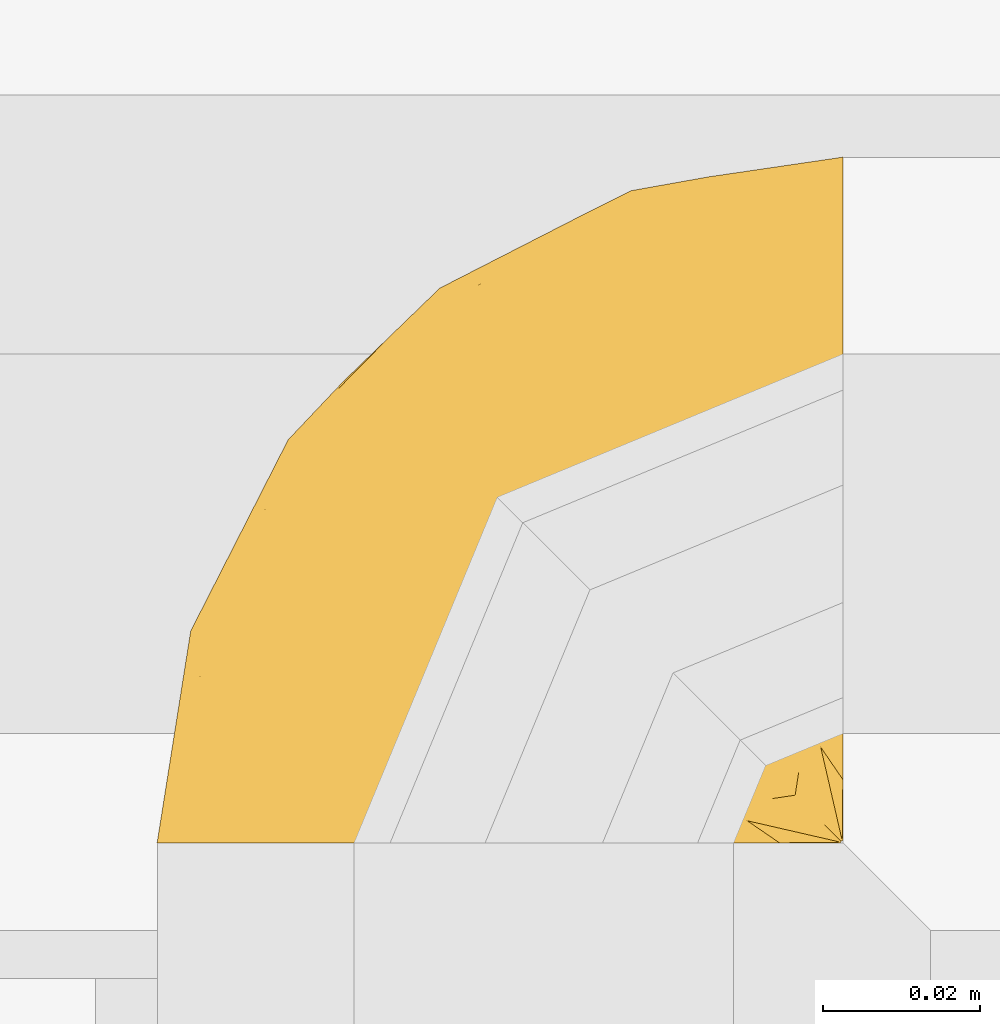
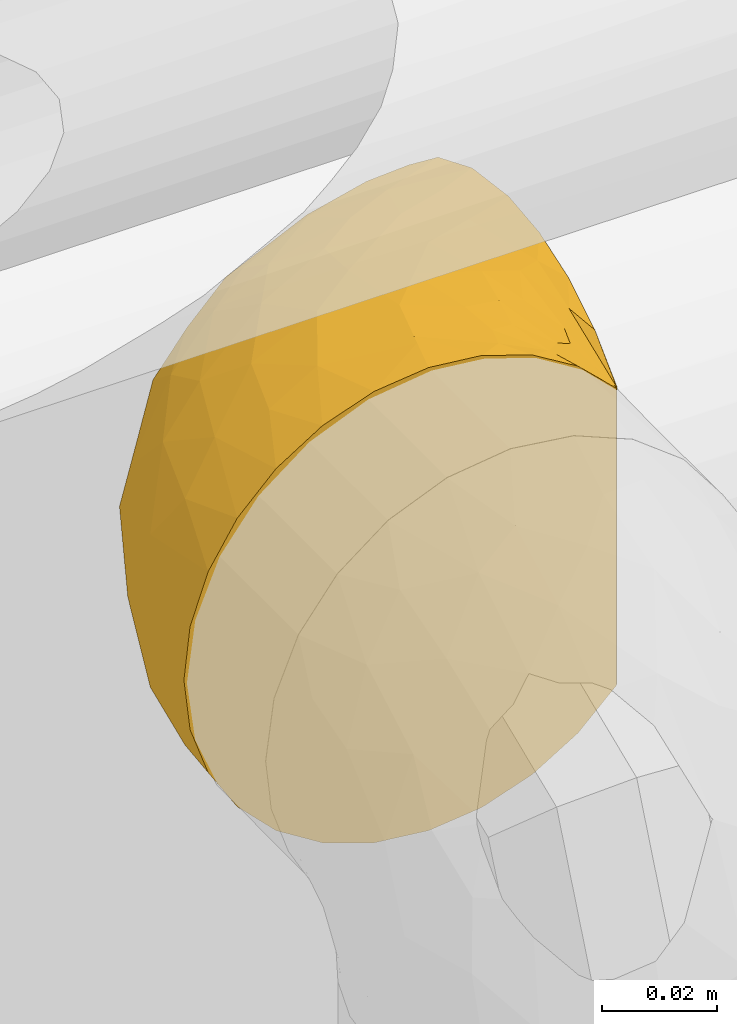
# One storey, part 44 of 94: 1 covering.
"""IFC2X3 building model written with IfcOpenShell, lengths in millimetres."""

import ifcopenshell
import ifcopenshell.guid

model = None  # the IFC model being written
_history = None  # IfcOwnerHistory: only IFC2X3 demands one
_inside = {}  # id of a spatial element -> (the spatial element, [elements in it])
_under = {}  # id of a project, library or spatial element -> (it, [spatial elements below it])
_declared = {}  # id of a project -> (the project, [libraries it declares])
_typed = {}  # id of a type object -> (the type object, [elements of that type])
_made_of = {}  # id of a material, layer set ... -> (it, [elements and type objects made of it])


def new_model(schema):
    """Start an empty IFC model of exactly this schema.

    Asked for "IFC4X3", IfcOpenShell would pick the latest addendum, in which some entities
    have other attributes; the version numbers below select the first issue.
    IFC2X3 requires an IfcOwnerHistory on every rooted entity: one is made here for all.
    """
    global model, _history
    if schema == "IFC4X3":
        model = ifcopenshell.file(schema_version=(4, 3, 0, 0))
    else:
        model = ifcopenshell.file(schema=schema)
    _inside.clear()
    _under.clear()
    _declared.clear()
    _typed.clear()
    _made_of.clear()
    _history = None
    if model.schema == "IFC2X3":
        org = make("IfcOrganization", Name="unknown")
        user = make(
            "IfcPersonAndOrganization",
            ThePerson=make("IfcPerson", FamilyName="unknown"),
            TheOrganization=org,
        )
        app = make(
            "IfcApplication",
            ApplicationDeveloper=org,
            Version="unknown",
            ApplicationFullName="unknown",
            ApplicationIdentifier="unknown",
        )
        _history = make(
            "IfcOwnerHistory",
            OwningUser=user,
            OwningApplication=app,
            ChangeAction="ADDED",
            CreationDate=0,
        )
    return model


def make(cls, **values):
    """One entity of the class cls with the attributes given. An attribute that is None is left unset."""
    return model.create_entity(
        cls, **{name: value for name, value in values.items() if value is not None}
    )


def entity(cls, *values):
    """Any entity or typed value of the class cls, its attributes in the order of the schema. None: left unset."""
    e = model.create_entity(cls)
    for i, value in enumerate(values):
        if value is not None:
            e[i] = value
    return e


def rooted(cls, **values):
    """An entity with a GlobalId (a new one), such as an element, a storey or a relation."""
    return make(cls, GlobalId=ifcopenshell.guid.new(), OwnerHistory=_history, **values)


def si_unit(unit_type, name, prefix=None):
    """IfcSIUnit, for example si_unit("LENGTHUNIT", "METRE", prefix="MILLI")."""
    return make("IfcSIUnit", UnitType=unit_type, Prefix=prefix, Name=name)


def converted_unit(unit_type, name, factor, base, dimensions=None, offset=None):
    """IfcConversionBasedUnit, such as the inch: factor (a typed value) times the base unit."""
    return make(
        "IfcConversionBasedUnit"
        if offset is None
        else "IfcConversionBasedUnitWithOffset",
        ConversionOffset=offset,
        Dimensions=None
        if dimensions is None
        else entity("IfcDimensionalExponents", *dimensions),
        UnitType=unit_type,
        Name=name,
        ConversionFactor=make(
            "IfcMeasureWithUnit", ValueComponent=factor, UnitComponent=base
        ),
    )


def derived_unit(unit_type, elements):
    """IfcDerivedUnit: a product of units, each with its exponent."""
    return make(
        "IfcDerivedUnit",
        Elements=[
            make("IfcDerivedUnitElement", Unit=unit, Exponent=power)
            for unit, power in elements
        ],
        UnitType=unit_type,
    )


def assignment(units):
    """IfcUnitAssignment: the units of a project."""
    return None if units is None else make("IfcUnitAssignment", Units=units)


def point(xyz):
    """IfcCartesianPoint."""
    return None if xyz is None else make("IfcCartesianPoint", Coordinates=xyz)


def direction(xyz):
    """IfcDirection."""
    return None if xyz is None else make("IfcDirection", DirectionRatios=xyz)


def frame(location, z_axis=None, x_axis=None):
    """IfcAxis2Placement3D, a coordinate frame: its origin and axes. An axis left out is left unset."""
    return make(
        "IfcAxis2Placement3D",
        Location=point(location),
        Axis=direction(z_axis),
        RefDirection=direction(x_axis),
    )


def origin():
    """The frame at (0, 0, 0) with its axes left unset."""
    return frame((0.0, 0.0, 0.0))


def place(relative_to, where):
    """IfcLocalPlacement: puts the frame where relative to a parent placement (None: the world)."""
    return make(
        "IfcLocalPlacement", PlacementRelTo=relative_to, RelativePlacement=where
    )


def context(
    kind, dimensions, precision=None, world=None, true_north=None, identifier=None
):
    """IfcGeometricRepresentationContext, for example the 3D "Model" context."""
    return make(
        "IfcGeometricRepresentationContext",
        ContextIdentifier=identifier,
        ContextType=kind,
        CoordinateSpaceDimension=dimensions,
        Precision=precision,
        WorldCoordinateSystem=world,
        TrueNorth=true_north,
    )


def subcontext(parent, identifier, kind, view, scale=None):
    """IfcGeometricRepresentationSubContext, for example "Body" below "Model"."""
    return make(
        "IfcGeometricRepresentationSubContext",
        ContextIdentifier=identifier,
        ContextType=kind,
        ParentContext=parent,
        TargetScale=scale,
        TargetView=view,
    )


def project(units=None, contexts=None):
    """IfcProject with its units and contexts."""
    return rooted(
        "IfcProject",
        Name="project",
        RepresentationContexts=contexts,
        UnitsInContext=assignment(units),
    )


def spatial(cls, under=None, at=None, **own):
    """A site, building, storey or space (cls), placed at a placement, below another one or the project."""
    s = rooted(cls, ObjectPlacement=at, **own)
    if under is not None:
        _under.setdefault(under.id(), (under, []))[1].append(s)
    return s


def faces_of(points, faces, orient=None, outer=None):
    """IfcFace entities. A face is a list of loops; a loop is a list of indices into points, from 0.

    orient and outer hold one flag for each loop. By default every Orientation is true, the
    first loop of a face is its IfcFaceOuterBound and the others are IfcFaceBound.
    """
    made = []
    for i, loops in enumerate(faces):
        bounds = []
        for j, loop in enumerate(loops):
            is_outer = j == 0 if outer is None else outer[i][j]
            bounds.append(
                make(
                    "IfcFaceOuterBound" if is_outer else "IfcFaceBound",
                    Bound=make("IfcPolyLoop", Polygon=[points[k] for k in loop]),
                    Orientation=True if orient is None else orient[i][j],
                )
            )
        made.append(make("IfcFace", Bounds=bounds))
    return made


def faceted_brep(points, faces, orient=None, outer=None, voids=None):
    """IfcFacetedBrep: a solid bounded by flat faces; with voids (closed shells), ...WithVoids."""
    shared = [point(p) for p in points]
    hull = make("IfcClosedShell", CfsFaces=faces_of(shared, faces, orient, outer))
    if voids is None:
        return make("IfcFacetedBrep", Outer=hull)
    return make(
        "IfcFacetedBrepWithVoids",
        Outer=hull,
        Voids=[
            make(cls, CfsFaces=faces_of(shared, fs, o, b)) for cls, fs, o, b in voids
        ],
    )


def shape(context_of_items, identifier, shape_type, items):
    """IfcShapeRepresentation: the items that make up one representation, for example the "Body"."""
    return make(
        "IfcShapeRepresentation",
        ContextOfItems=context_of_items,
        RepresentationIdentifier=identifier,
        RepresentationType=shape_type,
        Items=items,
    )


def material(Name=None, Category=None):
    """IfcMaterial."""
    return make("IfcMaterial", Name=Name, Category=Category)


def made_of(thing, what):
    """Note that an element or type object is made of a material, layer set ...; save() writes the relation."""
    if what is not None:
        _made_of.setdefault(what.id(), (what, []))[1].append(thing)
    return thing


def element(
    cls,
    number,
    at=None,
    inside=None,
    cuts=None,
    type_object=None,
    material=None,
    context=None,
    identifier="Body",
    shape_type=None,
    held_by="IfcProductDefinitionShape",
    body=None,
    shapes=None,
    **own,
):
    """One element of the class cls, such as IfcWall. Its Tag is "e" and its number.

    at: its placement. inside: the storey or other place that contains it. cuts: it is an
    opening in that element (IfcRelVoidsElement). A single representation is given by context,
    identifier, shape_type and body (its items); several are given by shapes. held_by: the class
    of the entity that holds the representations. save() writes the other relations.
    """
    e = rooted(cls, Tag="e%d" % number, ObjectPlacement=at, **own)
    if body is not None:
        shapes = [shape(context, identifier, shape_type, body)]
    if shapes is not None:
        e.Representation = make(held_by, Representations=shapes)
    if inside is not None:
        _inside.setdefault(inside.id(), (inside, []))[1].append(e)
    if cuts is not None:
        rooted(
            "IfcRelVoidsElement", RelatingBuildingElement=cuts, RelatedOpeningElement=e
        )
    if type_object is not None:
        _typed.setdefault(type_object.id(), (type_object, []))[1].append(e)
    return made_of(e, material)


def aggregate(whole, parts):
    """IfcRelAggregates: a whole, such as a stair, and the parts it consists of."""
    return rooted("IfcRelAggregates", RelatingObject=whole, RelatedObjects=parts)


def save(model, path):
    """Write the relations noted so far, then the file.

    IfcRelAggregates (storeys below a building ...), IfcRelContainedInSpatialStructure (elements
    in a storey), IfcRelDefinesByType, IfcRelAssociatesMaterial and IfcRelDeclares: one each for
    every whole, place, type object, material and project.
    """
    for whole, parts in _under.values():
        aggregate(whole, parts)
    for where, things in _inside.values():
        rooted(
            "IfcRelContainedInSpatialStructure",
            RelatedElements=things,
            RelatingStructure=where,
        )
    for kind, things in _typed.values():
        rooted("IfcRelDefinesByType", RelatedObjects=things, RelatingType=kind)
    for what, things in _made_of.values():
        rooted("IfcRelAssociatesMaterial", RelatedObjects=things, RelatingMaterial=what)
    for by, libraries in _declared.values():
        rooted("IfcRelDeclares", RelatingContext=by, RelatedDefinitions=libraries)
    model.write(path)


model = new_model("IFC2X3")

# Units and contexts
model_context = context("Model", 3, precision=0.01, world=origin(), true_north=direction((6.123031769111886e-17, 1.0)))
body_context = subcontext(model_context, "Body", "Model", "MODEL_VIEW")
ifc_project = project(units=[si_unit("LENGTHUNIT", "METRE", prefix="MILLI"), si_unit("AREAUNIT", "SQUARE_METRE"), si_unit("VOLUMEUNIT", "CUBIC_METRE"), converted_unit("PLANEANGLEUNIT", "DEGREE", entity("IfcRatioMeasure", 0.017453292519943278), si_unit("PLANEANGLEUNIT", "RADIAN"), dimensions=[0, 0, 0, 0, 0, 0, 0]), si_unit("MASSUNIT", "GRAM", prefix="KILO"), derived_unit("MASSDENSITYUNIT", [(si_unit("MASSUNIT", "GRAM", prefix="KILO"), 1), (si_unit("LENGTHUNIT", "METRE"), -3)]), derived_unit("IONCONCENTRATIONUNIT", [(si_unit("MASSUNIT", "GRAM", prefix="KILO"), 1), (si_unit("LENGTHUNIT", "METRE"), -3)]), derived_unit("MOMENTOFINERTIAUNIT", [(si_unit("LENGTHUNIT", "METRE"), 4)]), si_unit("TIMEUNIT", "SECOND"), si_unit("FREQUENCYUNIT", "HERTZ"), si_unit("THERMODYNAMICTEMPERATUREUNIT", "DEGREE_CELSIUS"), derived_unit("THERMALTRANSMITTANCEUNIT", [(si_unit("MASSUNIT", "GRAM", prefix="KILO"), 1), (si_unit("THERMODYNAMICTEMPERATUREUNIT", "KELVIN"), -1), (si_unit("TIMEUNIT", "SECOND"), -3)]), derived_unit("THERMALCONDUCTANCEUNIT", [(si_unit("MASSUNIT", "GRAM", prefix="KILO"), 1), (si_unit("THERMODYNAMICTEMPERATUREUNIT", "KELVIN"), -1), (si_unit("TIMEUNIT", "SECOND"), -3), (si_unit("LENGTHUNIT", "METRE"), 1)]), derived_unit("VOLUMETRICFLOWRATEUNIT", [(si_unit("LENGTHUNIT", "METRE"), 3), (si_unit("TIMEUNIT", "SECOND"), -1)]), derived_unit("MASSFLOWRATEUNIT", [(si_unit("MASSUNIT", "GRAM", prefix="KILO"), 1), (si_unit("TIMEUNIT", "SECOND"), -1)]), derived_unit("ROTATIONALFREQUENCYUNIT", [(si_unit("TIMEUNIT", "SECOND"), -1)]), si_unit("ELECTRICCURRENTUNIT", "AMPERE"), si_unit("ELECTRICVOLTAGEUNIT", "VOLT"), si_unit("POWERUNIT", "WATT"), si_unit("FORCEUNIT", "NEWTON", prefix="KILO"), si_unit("ILLUMINANCEUNIT", "LUX"), si_unit("LUMINOUSFLUXUNIT", "LUMEN"), si_unit("LUMINOUSINTENSITYUNIT", "CANDELA"), derived_unit("USERDEFINED", [(si_unit("MASSUNIT", "GRAM", prefix="KILO"), -1), (si_unit("LENGTHUNIT", "METRE"), -2), (si_unit("TIMEUNIT", "SECOND"), 3), (si_unit("LUMINOUSFLUXUNIT", "LUMEN"), 1)]), derived_unit("USERDEFINED", [(si_unit("MASSUNIT", "GRAM", prefix="KILO"), 1), (si_unit("TIMEUNIT", "SECOND"), -3), (si_unit("LENGTHUNIT", "METRE"), 3), (si_unit("ELECTRICCURRENTUNIT", "AMPERE"), -2)]), derived_unit("SOUNDPOWERUNIT", [(si_unit("MASSUNIT", "GRAM", prefix="KILO"), 1), (si_unit("TIMEUNIT", "SECOND"), -3), (si_unit("LENGTHUNIT", "METRE"), 2)]), derived_unit("SOUNDPRESSUREUNIT", [(si_unit("MASSUNIT", "GRAM", prefix="KILO"), 1), (si_unit("LENGTHUNIT", "METRE"), -1), (si_unit("TIMEUNIT", "SECOND"), -2)]), derived_unit("LINEARVELOCITYUNIT", [(si_unit("LENGTHUNIT", "METRE"), 1), (si_unit("TIMEUNIT", "SECOND"), -1)]), si_unit("PRESSUREUNIT", "PASCAL"), derived_unit("USERDEFINED", [(si_unit("MASSUNIT", "GRAM", prefix="KILO"), 1), (si_unit("LENGTHUNIT", "METRE"), -2), (si_unit("TIMEUNIT", "SECOND"), -2)]), derived_unit("LINEARFORCEUNIT", [(si_unit("MASSUNIT", "GRAM", prefix="KILO"), 1), (si_unit("TIMEUNIT", "SECOND"), -2)]), derived_unit("PLANARFORCEUNIT", [(si_unit("MASSUNIT", "GRAM", prefix="KILO"), 1), (si_unit("LENGTHUNIT", "METRE"), -1), (si_unit("TIMEUNIT", "SECOND"), -2)]), derived_unit("SPECIFICHEATCAPACITYUNIT", [(si_unit("THERMODYNAMICTEMPERATUREUNIT", "KELVIN"), -1), (si_unit("LENGTHUNIT", "METRE"), 2), (si_unit("TIMEUNIT", "SECOND"), -2)]), derived_unit("HEATINGVALUEUNIT", [(si_unit("LENGTHUNIT", "METRE"), 2), (si_unit("TIMEUNIT", "SECOND"), -2)]), derived_unit("VAPORPERMEABILITYUNIT", [(si_unit("LENGTHUNIT", "METRE"), -1), (si_unit("TIMEUNIT", "SECOND"), 1)]), derived_unit("DYNAMICVISCOSITYUNIT", [(si_unit("MASSUNIT", "GRAM", prefix="KILO"), 1), (si_unit("TIMEUNIT", "SECOND"), -1), (si_unit("LENGTHUNIT", "METRE"), -1)]), derived_unit("THERMALEXPANSIONCOEFFICIENTUNIT", [(si_unit("THERMODYNAMICTEMPERATUREUNIT", "KELVIN"), -1)]), derived_unit("MODULUSOFELASTICITYUNIT", [(si_unit("MASSUNIT", "GRAM", prefix="KILO"), 1), (si_unit("LENGTHUNIT", "METRE"), -1), (si_unit("TIMEUNIT", "SECOND"), -2)]), derived_unit("ISOTHERMALMOISTURECAPACITYUNIT", [(si_unit("LENGTHUNIT", "METRE"), 3), (si_unit("MASSUNIT", "GRAM", prefix="KILO"), -1)]), derived_unit("MOISTUREDIFFUSIVITYUNIT", [(si_unit("TIMEUNIT", "SECOND"), -1), (si_unit("LENGTHUNIT", "METRE"), 2)])], contexts=[model_context])

# Site, building, storey
site_placement = place(None, origin())
site = spatial("IfcSite", under=ifc_project, at=site_placement, Name="Default", CompositionType="ELEMENT")
building_placement = place(site_placement, origin())
building = spatial("IfcBuilding", under=site, at=building_placement, CompositionType="ELEMENT")
storey_placement = place(building_placement, origin())
storey = spatial("IfcBuildingStorey", under=building, at=storey_placement, Name="Niveau 0", CompositionType="ELEMENT", Elevation=0.0)

# Covering
ifc_material = material(Name="Isolation - Laine minérale")
covering_placement = place(storey_placement, frame((-9022.89113779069, 9987.250352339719, 2700.7452722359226)))
element("IfcCovering", 1, at=covering_placement, inside=storey, material=ifc_material, Name="Isolation des canalisations:Laine minérale", ObjectType="Isolation des canalisations:Laine minérale", PredefinedType="INSULATION", context=body_context, shape_type="Brep", body=[
    faceted_brep([(29.412134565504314, 1.5952722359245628, -6.466386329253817), (20.093252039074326, 1.5952722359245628, -12.324234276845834), (12.312548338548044, 1.5952722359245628, -20.107905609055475), (6.459227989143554, 1.5952722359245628, -29.426998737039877), (2.8261403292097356, 1.5952722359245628, -39.814613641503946), (1.5952722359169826, 1.5952722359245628, -50.7452722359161), (2.8288129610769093, 1.5952722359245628, -61.68764083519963), (6.466386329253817, 1.5952722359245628, -72.07840990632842), (12.324234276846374, 1.5952722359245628, -81.39729243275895), (20.107905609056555, 1.5952722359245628, -89.17799613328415), (29.42699873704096, 1.5952722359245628, -95.03131648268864), (39.81461364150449, 1.5952722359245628, -98.66440414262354), (50.74527223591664, 1.5952722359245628, -99.8952722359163), (61.40435822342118, 1.5952722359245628, -98.72554303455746), (71.55257335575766, 1.5952722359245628, -95.27367575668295), (80.70896636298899, 1.5952722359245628, -89.70550239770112), (88.43165280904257, 1.5952722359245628, -82.2961711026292), (88.43165280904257, 1.5952722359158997, -79.85190220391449), (88.43165280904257, 1.5952722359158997, -78.07484973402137), (88.43165280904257, 1.5952722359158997, -76.2977972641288), (88.43165280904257, 1.5952722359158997, -74.79820380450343), (88.43165280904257, 1.5952722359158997, -73.2986103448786), (88.43165280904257, 1.5952722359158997, -70.29942342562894), (88.43165280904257, 1.5952722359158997, -67.30023650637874), (88.43165280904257, 1.5952722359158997, -64.30104958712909), (88.43165280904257, 1.5952722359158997, -61.301862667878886), (88.43165280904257, 1.5952722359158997, -59.80226920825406), (88.43165280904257, 1.5952722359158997, -58.30267574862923), (88.43165280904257, 1.5952722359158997, -55.858406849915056), (88.43165280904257, 1.5952722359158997, -53.41413795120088), (88.43165280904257, 1.5952722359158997, -50.96986905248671), (88.43165280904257, 1.5952722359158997, -48.52560015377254), (88.43165280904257, 1.5952722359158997, -46.08133125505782), (88.43165280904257, 1.5952722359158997, -43.63706235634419), (88.43165280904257, 1.5952722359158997, -41.19279345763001), (88.43165280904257, 1.5952722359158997, -38.74852455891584), (88.43165280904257, 1.5952722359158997, -36.30425566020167), (88.43165280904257, 1.5952722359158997, -33.85998676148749), (88.43165280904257, 1.5952722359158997, -31.41571786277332), (88.43165280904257, 1.5952722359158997, -28.971448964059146), (88.43165280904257, 1.5952722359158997, -26.52718006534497), (88.43165280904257, 1.5952722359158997, -24.082911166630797), (88.43165280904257, 1.5952722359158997, -21.638642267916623), (88.43165280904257, 1.5952722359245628, -19.194373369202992), (80.69235262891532, 1.5952722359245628, -11.772270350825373), (71.53113811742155, 1.5952722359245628, -6.2068587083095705), (61.383900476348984, 1.5952722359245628, -2.760461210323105), (50.74527223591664, 1.5952722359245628, -1.5952722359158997), (39.802903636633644, 1.5952722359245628, -2.828812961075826), (88.74527223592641, 1.908891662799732, -82.29617110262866), (88.74527223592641, 9.641963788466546, -89.71348765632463), (88.74527223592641, 18.798688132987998, -95.27868204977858), (88.74527223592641, 28.94385431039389, -98.7272458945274), (88.74527223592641, 39.59527223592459, -99.89527223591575), (88.74527223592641, 52.31622830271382, -98.22052659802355), (88.74527223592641, 64.1702722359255, -93.31042083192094), (88.74527223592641, 74.34957053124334, -85.49957053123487), (88.74527223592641, 82.16042083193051, -75.32027223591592), (88.74527223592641, 87.07052659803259, -63.46622830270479), (88.74527223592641, 88.74527223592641, -50.7452722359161), (88.74527223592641, 87.07052659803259, -38.02431616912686), (88.74527223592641, 82.16042083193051, -26.17027223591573), (88.74527223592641, 74.34957053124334, -15.990973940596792), (88.74527223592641, 64.1702722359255, -8.180123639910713), (88.74527223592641, 52.31622830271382, -3.2700178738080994), (88.74527223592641, 39.59527223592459, -1.5952722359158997), (88.74527223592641, 28.94385431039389, -2.7632985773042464), (88.74527223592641, 18.798688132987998, -6.211862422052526), (88.74527223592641, 9.641963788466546, -11.777056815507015), (88.74527223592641, 1.908891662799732, -19.19437336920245), (88.74527223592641, 1.908891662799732, -21.63864226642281), (88.74527223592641, 1.908891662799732, -23.138235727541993), (88.74527223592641, 1.908891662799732, -25.110166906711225), (88.74527223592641, 1.908891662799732, -27.082098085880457), (88.74527223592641, 1.908891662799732, -29.05402926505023), (88.74527223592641, 1.908891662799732, -31.02596044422), (88.74527223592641, 1.908891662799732, -32.99789162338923), (88.74527223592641, 1.908891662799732, -34.969822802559), (88.74527223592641, 1.908891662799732, -36.94175398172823), (88.74527223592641, 1.908891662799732, -38.913685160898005), (88.74527223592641, 1.908891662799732, -40.88561634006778), (88.74527223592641, 1.908891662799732, -42.85754751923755), (88.74527223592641, 1.908891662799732, -44.82947869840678), (88.74527223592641, 1.908891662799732, -46.80140987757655), (88.74527223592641, 1.908891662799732, -48.773341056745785), (88.74527223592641, 1.908891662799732, -50.74527223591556), (88.74527223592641, 1.908891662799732, -52.71720341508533), (88.74527223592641, 1.908891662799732, -54.689134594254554), (88.74527223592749, 1.9088916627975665, -56.661065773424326), (88.74527223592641, 1.9088916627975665, -58.632996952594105), (88.74527223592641, 1.908891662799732, -60.60492813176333), (88.74527223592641, 1.908891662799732, -62.5768593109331), (88.74527223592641, 1.908891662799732, -64.54879049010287), (88.74527223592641, 1.908891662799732, -66.5207216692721), (88.74527223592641, 1.908891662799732, -69.51990859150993), (88.74527223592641, 1.908891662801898, -72.51909551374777), (88.74527223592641, 1.908891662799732, -74.96336441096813), (88.74527223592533, 1.908891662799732, -77.40763330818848), (88.74527223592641, 1.908891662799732, -79.85190220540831), (88.53090125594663, 1.8241875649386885, -47.73720476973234), (88.52210831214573, 1.8156242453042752, -49.65777912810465), (88.52122178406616, 1.8147227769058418, -40.01764283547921), (88.52777998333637, 1.8212241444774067, -37.92771907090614), (88.54092532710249, 1.8331787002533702, -53.48951745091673), (88.53506454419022, 1.828016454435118, -24.240550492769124), (88.49130573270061, 1.7792781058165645, -20.791406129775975), (88.51810292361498, 1.8114926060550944, -59.05247302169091), (88.52350981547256, 1.817034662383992, -78.62976787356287), (88.52548149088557, 1.81898896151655, -76.79032803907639), (88.5165327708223, 1.8098308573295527, -30.120454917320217), (88.52674320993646, 1.820221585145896, -28.08670561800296), (88.50469006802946, 1.7964621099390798, -57.08054182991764), (88.52964682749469, 1.8230063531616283, -63.562825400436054), (88.53317608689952, 1.826296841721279, -61.67745907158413), (88.51585328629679, 1.8091041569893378, -65.53475654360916), (88.52914218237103, 1.8225274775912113, -51.73123795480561), (88.52350981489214, 1.817034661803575, -22.3884388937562), (88.52591800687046, 1.8194169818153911, -80.4629694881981), (88.53664906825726, 1.8294378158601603, -45.815443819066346), (88.53747885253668, 1.8301744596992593, -33.98385679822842), (88.532731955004, 1.825888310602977, -35.87599747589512), (88.53426299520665, 1.8272900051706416, -67.38596354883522), (88.5337000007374, 1.8267767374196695, -43.93836928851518), (88.53493173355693, 1.8278964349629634, -26.096132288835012), (88.52350981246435, 1.8170346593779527, -19.19437336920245), (88.49487979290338, 1.747915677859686, -19.194373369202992), (88.46624977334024, 1.6787966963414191, -19.194373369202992), (88.52350981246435, 1.8170346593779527, -82.29617110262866), (88.59262879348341, 1.8456646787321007, -82.2961711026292), (88.66174777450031, 1.8742946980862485, -82.2961711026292), (88.51000647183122, 1.8026539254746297, -69.27838714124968), (88.53042484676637, 1.8237404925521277, -32.054952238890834), (88.5224676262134, 1.8159875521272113, -55.242256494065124), (88.52470424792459, 1.8182226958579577, -41.99993111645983), (88.5057932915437, 1.7977740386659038, -72.07129245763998), (88.5274414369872, 1.8208977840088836, -74.04840730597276), (88.66174777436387, 1.8742946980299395, -19.194373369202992), (88.5926287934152, 1.8456646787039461, -19.194373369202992), (88.46624977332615, 1.678796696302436, -82.2961711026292), (88.4948797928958, 1.7479156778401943, -82.2961711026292), (85.22080157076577, 23.495219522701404, -97.28026065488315), (85.93611072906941, 13.747756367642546, -92.74636463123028), (81.0780784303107, 22.409779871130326, -97.28026068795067), (83.13289242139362, 10.562522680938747, -91.53496062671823), (79.24527223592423, 37.049754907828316, -99.8952722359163), (81.28890223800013, 37.59734391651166, -99.8952722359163), (55.83630689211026, 20.595272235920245, -99.8952722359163), (66.39553001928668, 16.02014974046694, -98.55504664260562), (67.9404040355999, 9.26167767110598, -97.27709237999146), (69.74527223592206, 34.50423757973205, -99.8952722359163), (80.67378389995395, 9.667897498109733, -92.08523869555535), (79.7889209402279, 7.2029124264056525, -91.52705697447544), (74.32109358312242, 23.944746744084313, -98.554902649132), (66.85470593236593, 5.119390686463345, -97.27709230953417), (76.60336361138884, 4.4028932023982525, -92.73988957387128), (79.64911936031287, 17.541506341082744, -95.7999166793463), (52.743200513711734, 9.051642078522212, -99.8952722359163), (53.29078956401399, 11.095272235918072, -99.8952722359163), (73.61168493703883, 16.728859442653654, -97.0079248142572), (62.790789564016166, 27.549754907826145, -99.8952722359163), (73.87988529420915, 12.071559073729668, -95.72448717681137), (75.32913676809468, 47.623950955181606, -98.87881941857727), (65.9107418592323, 44.00144112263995, -98.83301276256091), (53.847614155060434, 58.899698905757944, -90.35896612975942), (59.13651173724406, 72.66771487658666, -80.6658965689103), (71.166122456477, 67.20155656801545, -89.73858973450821), (67.0054527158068, 54.07984229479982, -96.15395204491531), (78.8805128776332, 57.54110754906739, -96.15395161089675), (37.51978749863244, 72.10110329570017, -50.7452722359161), (61.81444117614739, 84.47984763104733, -50.7452722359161), (53.875201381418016, 80.24801351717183, -61.15080493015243), (25.784943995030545, 13.851436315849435, -92.3663011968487), (36.24418276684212, 15.165285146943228, -97.13949915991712), (29.56288236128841, 60.77765845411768, -68.84359020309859), (30.77068194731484, 55.38583609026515, -77.72163513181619), (15.292222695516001, 43.89737524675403, -65.87522637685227), (71.31385843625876, 86.12648113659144, -59.79441061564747), (47.2410274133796, 73.23168363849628, -70.98072673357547), (43.50389303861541, 64.74738573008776, -79.7421140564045), (75.2898525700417, 77.40373146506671, -80.66589650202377), (67.10273039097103, 82.14716981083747, -69.55416171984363), (37.099200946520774, 52.829115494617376, -85.50619835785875), (44.51517687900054, 48.878965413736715, -91.98084112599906), (33.70477633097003, 40.607220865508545, -90.08477530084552), (44.05169469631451, 28.769953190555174, -97.76701228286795), (30.044081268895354, 27.448445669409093, -92.36630165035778), (18.312338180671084, 19.800365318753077, -85.5061967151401), (5.8606968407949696, 28.52610329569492, -50.7452722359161), (7.041406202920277, 22.71562192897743, -66.98519337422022), (25.614469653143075, 42.31748570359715, -82.95460966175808), (15.886915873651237, 33.68382770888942, -76.90235033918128), (10.600409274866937, 16.806973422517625, -76.90235057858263), (38.50378416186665, 71.07858054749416, -62.41468564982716), (25.345180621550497, 60.332491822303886, -59.14435954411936), (53.163504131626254, 33.37332146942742, -98.92729244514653), (18.239441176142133, 52.82075697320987, -50.7452722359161), (52.694698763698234, 43.46542968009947, -96.76809515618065), (58.17589226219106, 79.20017463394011, -31.93638344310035), (71.70091272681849, 86.24488809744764, -41.905436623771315), (54.57433327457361, 80.83807017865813, -41.62511866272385), (42.49805076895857, 72.52816019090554, -35.352647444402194), (75.06235489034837, 83.87397883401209, -31.936382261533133), (24.5251412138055, 35.798660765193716, -15.997222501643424), (25.786342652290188, 48.02046276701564, -22.50195470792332), (15.878231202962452, 33.68736739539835, -24.603113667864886), (37.089792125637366, 52.83844921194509, -15.997599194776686), (35.71336208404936, 59.75598123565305, -23.203879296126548), (36.231508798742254, 15.17001623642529, -4.355753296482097), (70.53804152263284, 45.55141709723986, -2.5375085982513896), (69.74527223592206, 34.50423757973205, -1.5952722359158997), (79.24527223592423, 37.049754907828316, -1.5952722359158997), (7.0362994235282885, 22.71467774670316, -34.51880576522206), (69.24086116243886, 76.07714087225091, -20.82464795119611), (30.030512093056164, 27.454651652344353, -9.133617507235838), (25.77024521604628, 13.854008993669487, -9.133617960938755), (76.87540408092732, 68.47065883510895, -11.751955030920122), (74.00473445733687, 56.45843349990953, -5.336592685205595), (48.41047025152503, 68.0885450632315, -21.865705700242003), (62.62553049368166, 64.29272071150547, -11.751954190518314), (31.220776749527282, 66.01125638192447, -41.9823852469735), (29.560345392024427, 60.78019542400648, -32.65601578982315), (79.82666983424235, 48.01911236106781, -2.477909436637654), (10.591274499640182, 16.809109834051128, -24.603113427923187), (15.287247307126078, 43.900853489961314, -35.63402191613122), (18.29950680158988, 19.803681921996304, -15.997600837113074), (44.04987097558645, 28.78672684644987, -3.726659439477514), (55.83630689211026, 20.595272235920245, -1.5952722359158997), (54.23536248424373, 35.48506655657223, -2.7012349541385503), (62.790789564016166, 27.549754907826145, -1.5952722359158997), (52.743200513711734, 9.051642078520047, -1.5952722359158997), (53.29078956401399, 11.095272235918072, -1.5952722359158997), (48.412115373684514, 53.16291239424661, -9.986684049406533), (64.143047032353, 52.0530845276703, -5.0637132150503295), (40.10640265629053, 41.40103739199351, -8.340625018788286), (62.89073418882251, 40.721221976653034, -2.407172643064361), (47.672778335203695, 60.91677547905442, -15.399468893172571), (55.38955823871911, 45.94061161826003, -4.812375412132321), (81.07807840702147, 22.409778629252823, -4.210284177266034), (78.26566497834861, 16.464254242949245, -5.763920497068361), (74.32072912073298, 23.943292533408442, -2.935886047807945), (85.22080145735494, 23.49521891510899, -4.210284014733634), (85.93611080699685, 13.747755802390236, -8.744180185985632), (83.13257230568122, 10.564867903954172, -9.954133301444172), (82.68198005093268, 7.656624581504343, -11.377788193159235), (73.61706381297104, 16.72348133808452, -4.485349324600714), (79.75777141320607, 7.216517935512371, -9.940890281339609), (67.91845358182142, 9.263185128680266, -4.2062740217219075), (66.83334757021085, 5.119593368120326, -4.206273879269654), (76.58449008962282, 4.4058785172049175, -8.739069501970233), (66.39770760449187, 16.01862728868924, -2.9361309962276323), (72.78382599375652, 10.692146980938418, -5.684713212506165)], [[[0, 1, 2, 3, 4, 5, 6, 7, 8, 9, 10, 11, 12, 13, 14, 15, 16, 17, 18, 19, 20, 21, 22, 23, 24, 25, 26, 27, 28, 29, 30, 31, 32, 33, 34, 35, 36, 37, 38, 39, 40, 41, 42, 43, 44, 45, 46, 47, 48]], [[49, 50, 51, 52, 53, 54, 55, 56, 57, 58, 59, 60, 61, 62, 63, 64, 65, 66, 67, 68, 69, 70, 71, 72, 73, 74, 75, 76, 77, 78, 79, 80, 81, 82, 83, 84, 85, 86, 87, 88, 89, 90, 91, 92, 93, 94, 95, 96, 97, 98]], [[99, 100, 84]], [[101, 102, 35]], [[86, 103, 87]], [[72, 71, 104]], [[105, 70, 69]], [[27, 26, 106]], [[18, 107, 108]], [[109, 74, 110]], [[28, 27, 111]], [[25, 112, 113]], [[108, 97, 96]], [[114, 93, 92]], [[103, 86, 115]], [[97, 107, 98]], [[116, 71, 70]], [[107, 17, 117]], [[79, 102, 101]], [[99, 118, 32]], [[77, 119, 120]], [[121, 93, 114]], [[112, 91, 113]], [[89, 111, 106]], [[40, 39, 110]], [[107, 97, 108]], [[32, 118, 122]], [[92, 91, 112]], [[37, 120, 119]], [[85, 115, 86]], [[70, 105, 116]], [[72, 123, 73]], [[105, 124, 125, 126, 43]], [[117, 17, 16]], [[41, 116, 42]], [[117, 127, 128, 129, 49]], [[110, 123, 40]], [[42, 116, 105]], [[121, 23, 130]], [[24, 114, 112]], [[114, 24, 23]], [[104, 123, 72]], [[92, 112, 114]], [[104, 116, 41]], [[24, 112, 25]], [[110, 73, 123]], [[36, 120, 37]], [[40, 123, 41]], [[75, 74, 109]], [[131, 76, 75]], [[119, 131, 37]], [[109, 110, 39]], [[109, 39, 38]], [[74, 73, 110]], [[123, 104, 41]], [[116, 104, 71]], [[26, 25, 113]], [[113, 90, 106]], [[88, 87, 132]], [[113, 106, 26]], [[77, 76, 119]], [[132, 111, 88]], [[106, 111, 27]], [[132, 28, 111]], [[88, 111, 89]], [[89, 106, 90]], [[113, 91, 90]], [[131, 119, 76]], [[38, 37, 131]], [[120, 36, 102]], [[131, 109, 38]], [[109, 131, 75]], [[79, 78, 102]], [[78, 120, 102]], [[78, 77, 120]], [[122, 81, 133]], [[36, 35, 102]], [[33, 122, 133]], [[80, 79, 101]], [[34, 101, 35]], [[132, 29, 28]], [[81, 80, 133]], [[29, 103, 115]], [[30, 29, 115]], [[87, 103, 132]], [[100, 115, 85]], [[31, 30, 100]], [[115, 100, 30]], [[32, 31, 99]], [[118, 82, 122]], [[100, 85, 84]], [[99, 83, 118]], [[82, 118, 83]], [[33, 32, 122]], [[83, 99, 84]], [[100, 99, 31]], [[34, 33, 133]], [[122, 82, 81]], [[133, 101, 34]], [[101, 133, 80]], [[134, 95, 94]], [[23, 121, 114]], [[132, 103, 29]], [[121, 94, 93]], [[94, 121, 130]], [[98, 107, 117]], [[108, 20, 19, 18]], [[21, 135, 134]], [[20, 135, 21]], [[134, 135, 95]], [[108, 96, 135]], [[108, 135, 20]], [[135, 96, 95]], [[134, 22, 21]], [[130, 22, 134]], [[42, 105, 43]], [[105, 69, 136, 137, 124]], [[98, 117, 49]], [[117, 16, 138, 139, 127]], [[18, 17, 107]], [[94, 130, 134]], [[22, 130, 23]], [[140, 141, 142]], [[143, 129, 128, 127]], [[52, 144, 145, 53]], [[146, 147, 148]], [[142, 149, 144]], [[150, 127, 151]], [[51, 140, 52]], [[142, 152, 149]], [[52, 140, 144]], [[129, 143, 141]], [[14, 13, 153]], [[148, 151, 154]], [[155, 141, 143]], [[151, 138, 154]], [[14, 153, 154]], [[16, 15, 138]], [[13, 12, 156, 157]], [[152, 155, 158]], [[159, 158, 147]], [[157, 148, 153]], [[14, 154, 15]], [[50, 49, 129]], [[50, 129, 141]], [[141, 51, 50]], [[160, 148, 147]], [[146, 148, 157]], [[138, 15, 154]], [[150, 158, 155]], [[151, 127, 139, 138]], [[141, 140, 51]], [[144, 140, 142]], [[157, 153, 13]], [[154, 153, 148]], [[149, 152, 159]], [[160, 147, 158]], [[147, 146, 159]], [[155, 152, 142]], [[159, 152, 158]], [[127, 150, 143]], [[160, 150, 151]], [[150, 160, 158]], [[148, 160, 151]], [[141, 155, 142]], [[155, 143, 150]], [[156, 12, 11]], [[161, 149, 162]], [[163, 164, 165]], [[166, 167, 161]], [[168, 169, 170]], [[55, 165, 56]], [[171, 172, 10]], [[173, 174, 175]], [[58, 176, 59]], [[173, 177, 178]], [[179, 57, 56]], [[55, 167, 165]], [[170, 180, 177]], [[57, 179, 180]], [[167, 55, 54]], [[181, 182, 183]], [[184, 146, 172]], [[172, 185, 184]], [[186, 185, 171]], [[186, 9, 8]], [[172, 146, 157, 156]], [[172, 11, 10]], [[173, 178, 174]], [[6, 187, 188]], [[189, 186, 190]], [[191, 186, 8]], [[175, 190, 188]], [[168, 192, 193]], [[189, 190, 174]], [[57, 180, 58]], [[8, 7, 191]], [[188, 7, 6]], [[6, 5, 187]], [[190, 191, 188]], [[159, 194, 162]], [[175, 187, 195]], [[177, 180, 164]], [[10, 9, 171]], [[176, 180, 170]], [[156, 11, 172]], [[163, 165, 166]], [[179, 165, 164]], [[54, 53, 145]], [[185, 189, 183]], [[184, 196, 194]], [[188, 191, 7]], [[186, 191, 190]], [[186, 171, 9]], [[172, 171, 185]], [[187, 175, 188]], [[193, 175, 195]], [[196, 163, 166]], [[163, 181, 178]], [[162, 166, 161]], [[184, 185, 183]], [[178, 177, 164]], [[177, 192, 170]], [[177, 173, 192]], [[176, 170, 169]], [[59, 176, 169]], [[58, 180, 176]], [[193, 192, 173]], [[168, 170, 192]], [[175, 193, 173]], [[168, 193, 195]], [[163, 178, 164]], [[184, 194, 146]], [[178, 181, 174]], [[189, 174, 181]], [[175, 174, 190]], [[183, 189, 181]], [[186, 189, 185]], [[182, 181, 163]], [[183, 182, 184]], [[163, 196, 182]], [[184, 182, 196]], [[165, 179, 56]], [[180, 179, 164]], [[161, 54, 145]], [[165, 167, 166]], [[54, 161, 167]], [[161, 145, 144, 149]], [[159, 162, 149]], [[196, 166, 162]], [[162, 194, 196]], [[146, 194, 159]], [[197, 198, 199]], [[59, 169, 198]], [[197, 199, 200]], [[198, 197, 201]], [[202, 203, 204]], [[61, 60, 201]], [[205, 206, 203]], [[0, 48, 207]], [[208, 209, 210]], [[187, 4, 211]], [[201, 212, 61]], [[213, 214, 207]], [[62, 215, 63]], [[63, 215, 216]], [[3, 211, 4]], [[217, 218, 212]], [[219, 220, 200]], [[216, 208, 221]], [[3, 2, 222]], [[63, 216, 64]], [[62, 61, 212]], [[211, 3, 222]], [[5, 4, 187]], [[217, 197, 200]], [[203, 223, 204]], [[2, 1, 224]], [[225, 213, 207]], [[204, 222, 224]], [[1, 0, 214]], [[204, 224, 202]], [[207, 226, 225]], [[227, 226, 228]], [[223, 211, 204]], [[214, 224, 1]], [[202, 224, 213]], [[48, 47, 229]], [[207, 229, 230, 226]], [[211, 223, 187]], [[218, 231, 232]], [[48, 229, 207]], [[205, 233, 231]], [[233, 213, 225]], [[217, 212, 197]], [[215, 212, 218]], [[228, 234, 227]], [[233, 205, 202]], [[208, 234, 209]], [[64, 221, 65]], [[235, 205, 231]], [[207, 214, 0]], [[224, 214, 213]], [[224, 222, 2]], [[211, 222, 204]], [[219, 223, 220]], [[187, 223, 195]], [[227, 233, 225]], [[234, 228, 209]], [[231, 233, 236]], [[221, 208, 210]], [[232, 208, 216]], [[65, 221, 210]], [[216, 221, 64]], [[233, 202, 213]], [[203, 202, 205]], [[205, 235, 206]], [[223, 203, 220]], [[200, 206, 217]], [[220, 203, 206]], [[232, 231, 236]], [[235, 218, 217]], [[212, 215, 62]], [[216, 215, 218]], [[218, 232, 216]], [[234, 232, 236]], [[232, 234, 208]], [[234, 236, 227]], [[233, 227, 236]], [[226, 227, 225]], [[198, 201, 60]], [[212, 201, 197]], [[59, 198, 60]], [[198, 169, 199]], [[169, 168, 199]], [[219, 200, 199]], [[219, 199, 168]], [[200, 220, 206]], [[168, 195, 219]], [[223, 219, 195]], [[218, 235, 231]], [[206, 235, 217]], [[66, 65, 210]], [[209, 237, 210]], [[238, 237, 239]], [[67, 240, 241]], [[242, 136, 241]], [[243, 137, 242]], [[243, 244, 245]], [[66, 240, 67]], [[136, 69, 68]], [[136, 68, 241]], [[246, 226, 230]], [[67, 241, 68]], [[210, 237, 240]], [[45, 247, 46]], [[209, 239, 237]], [[246, 247, 248]], [[46, 247, 230]], [[249, 250, 244]], [[239, 228, 244]], [[226, 246, 249]], [[250, 248, 245]], [[44, 43, 126]], [[237, 242, 241]], [[248, 45, 44]], [[44, 126, 248]], [[46, 230, 229, 47]], [[245, 126, 125]], [[126, 245, 248]], [[243, 124, 137]], [[210, 240, 66]], [[241, 240, 237]], [[248, 247, 45]], [[230, 247, 246]], [[226, 249, 228]], [[238, 239, 244]], [[239, 209, 228]], [[250, 249, 246]], [[228, 249, 244]], [[243, 242, 238]], [[136, 242, 137]], [[124, 243, 125]], [[125, 243, 245]], [[243, 238, 244]], [[237, 238, 242]], [[248, 250, 246]], [[244, 250, 245]]]),
])

save(model, "model.ifc")
